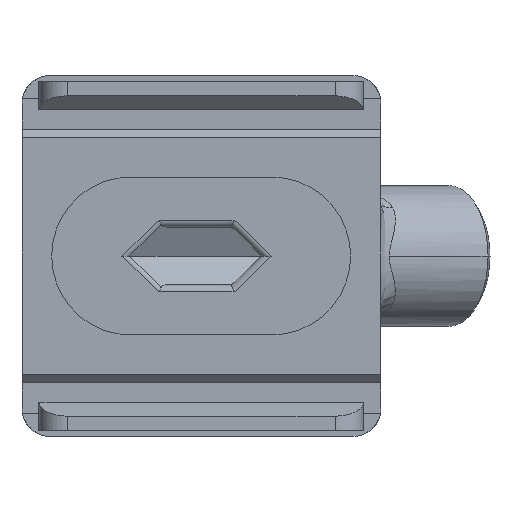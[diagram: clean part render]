
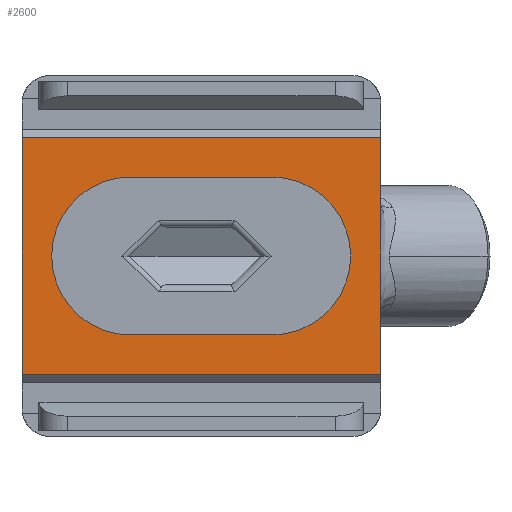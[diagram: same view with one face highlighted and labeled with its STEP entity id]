
A CAD part, left-side view. The second image highlights one B-rep face of the part: STEP entity #2600.
In plain terms, the highlighted planar face has unit normal (-1, 0, 0).
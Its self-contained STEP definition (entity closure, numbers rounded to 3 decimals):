
#125 = EDGE_CURVE ( 'NONE', #2396, #3410, #2508, .T. ) ;
#142 = DIRECTION ( 'NONE',  ( 0., 0., -1. ) ) ;
#218 = ORIENTED_EDGE ( 'NONE', *, *, #635, .T. ) ;
#319 = PLANE ( 'NONE',  #1517 ) ;
#321 = CARTESIAN_POINT ( 'NONE',  ( 0.3, -523.552, -5.599 ) ) ;
#382 = ORIENTED_EDGE ( 'NONE', *, *, #125, .T. ) ;
#418 = VERTEX_POINT ( 'NONE', #2221 ) ;
#517 = CARTESIAN_POINT ( 'NONE',  ( 0.3, -505.849, 8.393 ) ) ;
#535 = DIRECTION ( 'NONE',  ( 0., 0., 1. ) ) ;
#544 = AXIS2_PLACEMENT_3D ( 'NONE', #3587, #2543, #3812 ) ;
#575 = CARTESIAN_POINT ( 'NONE',  ( 0.3, -505.849, -8.393 ) ) ;
#584 = CARTESIAN_POINT ( 'NONE',  ( 0.3, -523.552, 0.001 ) ) ;
#614 = VECTOR ( 'NONE', #1134, 1000. ) ;
#635 = EDGE_CURVE ( 'NONE', #3410, #2197, #1434, .T. ) ;
#708 = EDGE_LOOP ( 'NONE', ( #382, #218, #2327, #2271, #3612 ) ) ;
#790 = VERTEX_POINT ( 'NONE', #2260 ) ;
#803 = VECTOR ( 'NONE', #2094, 1000. ) ;
#1046 = DIRECTION ( 'NONE',  ( 0., 1., 0. ) ) ;
#1087 = EDGE_CURVE ( 'NONE', #2197, #1750, #2512, .T. ) ;
#1111 = CARTESIAN_POINT ( 'NONE',  ( 0.3, 0., 8.393 ) ) ;
#1134 = DIRECTION ( 'NONE',  ( 0., -1., 0. ) ) ;
#1205 = DIRECTION ( 'NONE',  ( 1., 0., 0. ) ) ;
#1254 = DIRECTION ( 'NONE',  ( 0., 0., -1. ) ) ;
#1267 = LINE ( 'NONE', #2837, #3646 ) ;
#1321 = ORIENTED_EDGE ( 'NONE', *, *, #2648, .F. ) ;
#1334 = EDGE_CURVE ( 'NONE', #1750, #3296, #2721, .T. ) ;
#1434 = LINE ( 'NONE', #3408, #803 ) ;
#1517 = AXIS2_PLACEMENT_3D ( 'NONE', #2133, #1205, #3406 ) ;
#1623 = ORIENTED_EDGE ( 'NONE', *, *, #1827, .T. ) ;
#1656 = CARTESIAN_POINT ( 'NONE',  ( 0.3, 0., -8.393 ) ) ;
#1708 = AXIS2_PLACEMENT_3D ( 'NONE', #3885, #2369, #142 ) ;
#1750 = VERTEX_POINT ( 'NONE', #4019 ) ;
#1774 = CARTESIAN_POINT ( 'NONE',  ( 0.3, -523.552, 5.601 ) ) ;
#1827 = EDGE_CURVE ( 'NONE', #3965, #790, #3572, .T. ) ;
#1831 = DIRECTION ( 'NONE',  ( 1., 0., 0. ) ) ;
#1972 = VECTOR ( 'NONE', #2275, 1000. ) ;
#1988 = VERTEX_POINT ( 'NONE', #517 ) ;
#2089 = CARTESIAN_POINT ( 'NONE',  ( 0.3, -523.552, -5.599 ) ) ;
#2094 = DIRECTION ( 'NONE',  ( 0., -1., 0. ) ) ;
#2127 = ORIENTED_EDGE ( 'NONE', *, *, #2991, .F. ) ;
#2133 = CARTESIAN_POINT ( 'NONE',  ( 0.3, 0., 0. ) ) ;
#2144 = CARTESIAN_POINT ( 'NONE',  ( 0.3, -513.552, 5.601 ) ) ;
#2197 = VERTEX_POINT ( 'NONE', #1774 ) ;
#2221 = CARTESIAN_POINT ( 'NONE',  ( 0.3, -531.299, 8.393 ) ) ;
#2260 = CARTESIAN_POINT ( 'NONE',  ( 0.3, -531.299, -8.393 ) ) ;
#2271 = ORIENTED_EDGE ( 'NONE', *, *, #1334, .T. ) ;
#2275 = DIRECTION ( 'NONE',  ( 0., 1., 0. ) ) ;
#2327 = ORIENTED_EDGE ( 'NONE', *, *, #1087, .T. ) ;
#2369 = DIRECTION ( 'NONE',  ( 1., 0., 0. ) ) ;
#2380 = CARTESIAN_POINT ( 'NONE',  ( 0.3, -531.299, 12.801 ) ) ;
#2381 = VECTOR ( 'NONE', #3659, 1000. ) ;
#2396 = VERTEX_POINT ( 'NONE', #3775 ) ;
#2438 = FACE_OUTER_BOUND ( 'NONE', #3102, .T. ) ;
#2508 = CIRCLE ( 'NONE', #1708, 5.6 ) ;
#2512 = CIRCLE ( 'NONE', #544, 5.6 ) ;
#2543 = DIRECTION ( 'NONE',  ( 1., 0., 0. ) ) ;
#2600 = ADVANCED_FACE ( 'NONE', ( #3795, #2438 ), #319, .F. ) ;
#2648 = EDGE_CURVE ( 'NONE', #3965, #1988, #1267, .T. ) ;
#2671 = LINE ( 'NONE', #2380, #2381 ) ;
#2721 = CIRCLE ( 'NONE', #3714, 5.6 ) ;
#2724 = VECTOR ( 'NONE', #1046, 1000. ) ;
#2776 = EDGE_CURVE ( 'NONE', #3296, #2396, #3466, .T. ) ;
#2837 = CARTESIAN_POINT ( 'NONE',  ( 0.3, -505.849, 12.801 ) ) ;
#2991 = EDGE_CURVE ( 'NONE', #418, #790, #2671, .T. ) ;
#3102 = EDGE_LOOP ( 'NONE', ( #1321, #1623, #2127, #3711 ) ) ;
#3296 = VERTEX_POINT ( 'NONE', #2089 ) ;
#3406 = DIRECTION ( 'NONE',  ( 0., 0., -1. ) ) ;
#3408 = CARTESIAN_POINT ( 'NONE',  ( 0.3, -513.552, 5.601 ) ) ;
#3410 = VERTEX_POINT ( 'NONE', #2144 ) ;
#3466 = LINE ( 'NONE', #321, #1972 ) ;
#3572 = LINE ( 'NONE', #1656, #614 ) ;
#3587 = CARTESIAN_POINT ( 'NONE',  ( 0.3, -523.552, 0.001 ) ) ;
#3612 = ORIENTED_EDGE ( 'NONE', *, *, #2776, .T. ) ;
#3615 = LINE ( 'NONE', #1111, #2724 ) ;
#3646 = VECTOR ( 'NONE', #535, 1000. ) ;
#3659 = DIRECTION ( 'NONE',  ( 0., 0., -1. ) ) ;
#3711 = ORIENTED_EDGE ( 'NONE', *, *, #3797, .T. ) ;
#3714 = AXIS2_PLACEMENT_3D ( 'NONE', #584, #1831, #1254 ) ;
#3775 = CARTESIAN_POINT ( 'NONE',  ( 0.3, -513.552, -5.599 ) ) ;
#3795 = FACE_BOUND ( 'NONE', #708, .T. ) ;
#3797 = EDGE_CURVE ( 'NONE', #418, #1988, #3615, .T. ) ;
#3812 = DIRECTION ( 'NONE',  ( 0., 0., -1. ) ) ;
#3885 = CARTESIAN_POINT ( 'NONE',  ( 0.3, -513.552, 0.001 ) ) ;
#3965 = VERTEX_POINT ( 'NONE', #575 ) ;
#4019 = CARTESIAN_POINT ( 'NONE',  ( 0.3, -529.152, 0.001 ) ) ;
